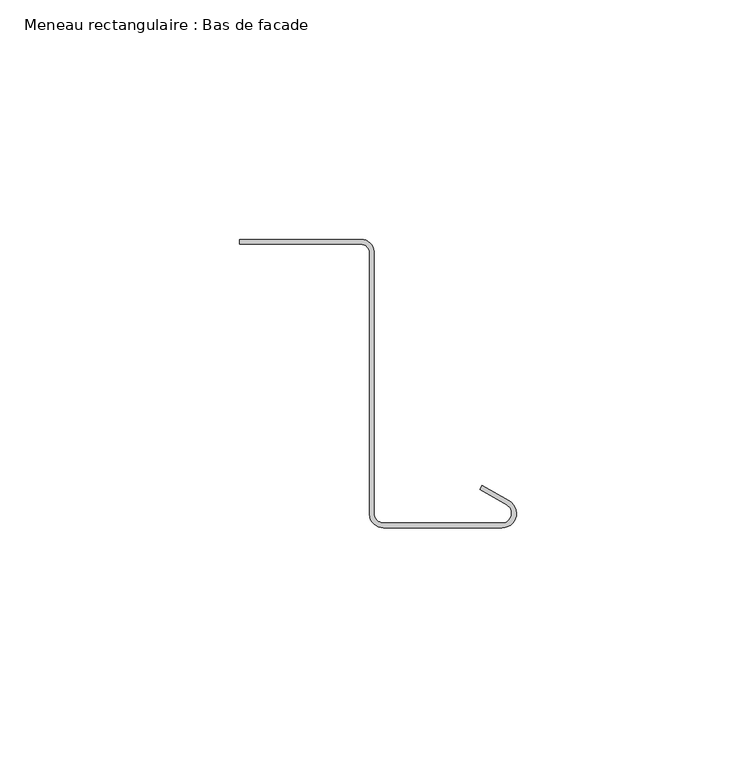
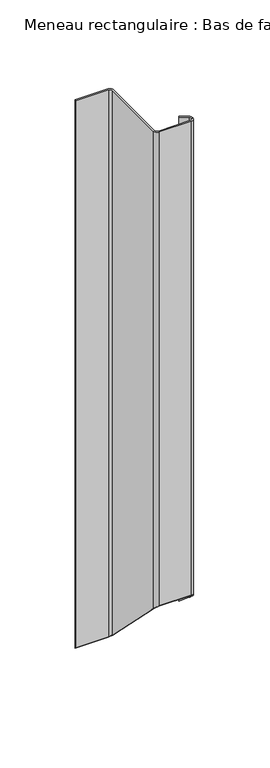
"""IFC4 building model written with IfcOpenShell, lengths in millimetres: member geometry, Meneau rectangulaire : Bas de facade."""

from ifc_helpers import new_model, si_unit, frame, origin, place, context, project, spatial, polyline, circle_curve, ellipse_curve, source, transform, mapped, element, save
from ifc_brep_helpers import plane_surface, cylinder_surface, revolved_surface, advanced_brep


def meneau_rectangulaire_bas_de_facade_e5fd763a(model_context):
    return source(origin(), model_context, "Body", "AdvancedBrep", [
        advanced_brep(
        [(-32.4584179, 2.9588923, 0.0), (-57.8548383, 2.9588923, 0.0), (-57.8548383, 1.9588923, 0.0), (-32.4584179, 1.9588923, 0.0), (-30.7239521, 0.4415475, 0.0), (-30.7239521, -54.522067, 0.0), (-27.735368, -57.2605998, 0.0), (-3.0, -57.2605998, 0.0), (-1.5, -51.6625235, 0.0), (-7.1638061, -48.3925235, 0.0), (-7.6638061, -49.258549, 0.0), (-2.0, -52.528549, 0.0), (-3.0, -56.2605998, 0.0), (-27.735368, -56.2605998, 0.0), (-29.7143802, -54.5495817, 0.0), (-29.7143802, 0.3898824, 0.0), (-32.4584179, 2.9588923, -445.9588923), (-57.8548383, 2.9588923, -445.9588923), (-57.8548383, 1.9588923, -444.9588923), (-32.4584179, 1.9588923, -444.9588923), (-30.7239521, 0.4415475, -443.4415475), (-30.7239521, -54.522067, -388.477933), (-27.735368, -57.2605998, -385.7394002), (-3.0, -57.2605998, -385.7394002), (-1.5, -51.6625235, -391.3374765), (-7.1638061, -48.3925235, -394.6074765), (-7.6638061, -49.258549, -393.741451), (-2.0, -52.528549, -390.471451), (-3.0, -56.2605998, -386.7394002), (-27.735368, -56.2605998, -386.7394002), (-29.7143802, -54.5495817, -388.4504183), (-29.7143802, 0.3898824, -443.3898824)],
        [
            (0, 1),
            (1, 2),
            (2, 3),
            (3, 4, circle_curve(frame((-32.4584179, 0.2088923, 0.0), z_axis=(0.0, 0.0, -1.0), x_axis=(0.0, 1.0, 0.0)), 1.75)),
            (4, 5),
            (5, 6, circle_curve(frame((-27.735368, -54.2605998, 0.0), z_axis=(0.0, 0.0, 1.0), x_axis=(-0.9961946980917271, -0.08715574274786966, 0.0)), 3.0)),
            (6, 7),
            (7, 8, circle_curve(frame((-3.0, -54.2605998, 0.0), z_axis=(0.0, 0.0, 1.0), x_axis=(0.0, -1.0, 0.0)), 3.0)),
            (8, 9),
            (9, 10),
            (10, 11),
            (11, 12, circle_curve(frame((-3.0, -54.2605998, 0.0), z_axis=(0.0, 0.0, -1.0), x_axis=(0.0, -1.0, 0.0)), 2.0)),
            (12, 13),
            (13, 14, circle_curve(frame((-27.735368, -54.2605998, 0.0), z_axis=(0.0, 0.0, -1.0), x_axis=(-0.9961946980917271, -0.08715574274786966, 0.0)), 2.0)),
            (14, 15),
            (15, 0, circle_curve(frame((-32.4584179, 0.2088923, 0.0), z_axis=(0.0, 0.0, 1.0), x_axis=(0.0, 1.0, 0.0)), 2.75)),
            (0, 16),
            (16, 17),
            (17, 1),
            (17, 18),
            (18, 2),
            (18, 19),
            (19, 3),
            (19, 20, ellipse_curve(frame((-32.4584179, 0.2088923, -443.2088923), z_axis=(0.0, -0.7071067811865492, -0.7071067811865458), x_axis=(0.0, 0.7071067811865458, -0.7071067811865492)), 2.4748737, 1.75)),
            (20, 4),
            (20, 21),
            (21, 5),
            (21, 22, ellipse_curve(frame((-27.735368, -54.2605998, -388.7394002), z_axis=(0.0, 0.7071067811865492, 0.7071067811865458), x_axis=(0.0, -0.7071067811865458, 0.7071067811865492)), 4.2426407, 3.0)),
            (22, 6),
            (22, 23),
            (23, 7),
            (23, 24, ellipse_curve(frame((-3.0, -54.2605998, -388.7394002), z_axis=(0.0, 0.7071067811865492, 0.7071067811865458), x_axis=(0.0, -0.7071067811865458, 0.7071067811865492)), 4.2426407, 3.0)),
            (24, 8),
            (24, 25),
            (25, 9),
            (25, 26),
            (26, 10),
            (26, 27),
            (27, 11),
            (27, 28, ellipse_curve(frame((-3.0, -54.2605998, -388.7394002), z_axis=(0.0, -0.7071067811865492, -0.7071067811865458), x_axis=(0.0, 0.7071067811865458, -0.7071067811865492)), 2.8284271, 2.0)),
            (28, 12),
            (28, 29),
            (29, 13),
            (29, 30, ellipse_curve(frame((-27.735368, -54.2605998, -388.7394002), z_axis=(0.0, -0.7071067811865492, -0.7071067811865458), x_axis=(0.0, 0.7071067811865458, -0.7071067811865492)), 2.8284271, 2.0)),
            (30, 14),
            (30, 31),
            (31, 15),
            (31, 16, ellipse_curve(frame((-32.4584179, 0.2088923, -443.2088923), z_axis=(0.0, 0.7071067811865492, 0.7071067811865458), x_axis=(0.0, -0.7071067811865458, 0.7071067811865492)), 3.8890873, 2.75)),
        ],
        [
            plane_surface(frame((0.0, -63.8351035, 0.0), z_axis=(0.0, 0.0, 1.0), x_axis=(-1.0, 0.0, 0.0))),
            plane_surface(frame((-32.4584179, 2.9588923, 0.0), z_axis=(0.0, 1.0, 0.0), x_axis=(0.0, 0.0, -1.0))),
            plane_surface(frame((-57.8548383, 2.9588923, 0.0), z_axis=(-1.0, 0.0, 0.0), x_axis=(0.0, 0.0, -1.0))),
            plane_surface(frame((-57.8548383, 1.9588923, 0.0), z_axis=(0.0, -1.0, 0.0), x_axis=(0.0, 0.0, -1.0))),
            revolved_surface(polyline([(-32.4584179, 1.9588923, -444.9588923), (-32.4584179, 1.9588923, 0.0)]), (-32.4584179, 0.2088923, 0.0), (0.0, 0.0, -1.0)),
            plane_surface(frame((-30.7239521, 0.4415475, 0.0), z_axis=(-1.0, 0.0, 0.0), x_axis=(0.0, 0.0, -1.0))),
            cylinder_surface(frame((-27.735368, -54.2605998, 0.0), z_axis=(0.0, 0.0, 1.0000000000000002), x_axis=(-0.9961946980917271, -0.08715574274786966, 0.0)), 3.0),
            plane_surface(frame((-27.735368, -57.2605998, 0.0), z_axis=(0.0, -1.0, 0.0), x_axis=(0.0, 0.0, -1.0))),
            cylinder_surface(frame((-3.0, -54.2605998, 0.0), z_axis=(0.0, 0.0, 1.0), x_axis=(0.0, -1.0, 0.0)), 3.0),
            plane_surface(frame((-1.5, -51.6625235, 0.0), z_axis=(0.5000000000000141, 0.8660254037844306, 0.0), x_axis=(0.0, 0.0, -1.0))),
            plane_surface(frame((-7.1638061, -48.3925235, 0.0), z_axis=(-0.8660254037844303, 0.5000000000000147, 0.0), x_axis=(0.0, 0.0, -1.0))),
            plane_surface(frame((-7.6638061, -49.258549, 0.0), z_axis=(-0.500000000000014, -0.8660254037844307, 0.0), x_axis=(0.0, 0.0, -1.0))),
            revolved_surface(polyline([(-3.0, -56.2605998, -390.7394001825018), (-3.0, -56.2605998, 0.0)]), (-3.0, -54.2605998, 0.0), (0.0, 0.0, -1.0)),
            plane_surface(frame((-3.0, -56.2605998, 0.0), z_axis=(0.0, 1.0, 0.0), x_axis=(0.0, 0.0, -1.0))),
            revolved_surface(polyline([(-29.727757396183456, -54.434911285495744, -390.73940018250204), (-29.727757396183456, -54.434911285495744, 0.0)]), (-27.735368, -54.2605998, 0.0), (0.0, 0.0, -1.0000000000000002)),
            plane_surface(frame((-29.7143802, -54.5495817, 0.0), z_axis=(1.0, 0.0, 0.0), x_axis=(0.0, 0.0, -1.0))),
            cylinder_surface(frame((-32.4584179, 0.2088923, 0.0), z_axis=(0.0, 0.0, 1.0), x_axis=(0.0, 1.0, 0.0)), 2.75),
            plane_surface(frame((304.8, 0.0, -443.0), z_axis=(0.0, -0.7071067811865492, -0.7071067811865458), x_axis=(0.0, -0.7071067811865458, 0.7071067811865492))),
        ],
        [
            (0, [[1, 2, 3, 4, 5, 6, 7, 8, 9, 10, 11, 12, 13, 14, 15, 16]]),
            (1, [[-1, 17, 18, 19]]),
            (2, [[-2, -19, 20, 21]]),
            (3, [[-3, -21, 22, 23]]),
            (4, [[-4, -23, 24, 25]]),
            (5, [[-5, -25, 26, 27]]),
            (6, [[-6, -27, 28, 29]]),
            (7, [[-7, -29, 30, 31]]),
            (8, [[-8, -31, 32, 33]]),
            (9, [[-9, -33, 34, 35]]),
            (10, [[-10, -35, 36, 37]]),
            (11, [[-11, -37, 38, 39]]),
            (12, [[-12, -39, 40, 41]]),
            (13, [[-13, -41, 42, 43]]),
            (14, [[-14, -43, 44, 45]]),
            (15, [[-15, -45, 46, 47]]),
            (16, [[-16, -47, 48, -17]]),
            (17, [[-48, -46, -44, -42, -40, -38, -36, -34, -32, -30, -28, -26, -24, -22, -20, -18]]),
        ],
    ),
    ])


if __name__ == "__main__":
    model = new_model("IFC4")
    model_context = context("Model", 3, world=origin())
    ifc_project = project(units=[si_unit("LENGTHUNIT", "METRE", prefix="MILLI")], contexts=[model_context])
    site = spatial("IfcSite", under=ifc_project)
    building = spatial("IfcBuilding", under=site)
    placement = place(None, origin())
    meneau_rectangulaire_bas_de_facade_shape = meneau_rectangulaire_bas_de_facade_e5fd763a(model_context)
    element("IfcMember", 1, ObjectType="Meneau rectangulaire : Bas de facade", at=placement, inside=building, context=model_context, shape_type="MappedRepresentation", body=[
        mapped(meneau_rectangulaire_bas_de_facade_shape, transform((0.0, 0.0, 0.0), x_axis=(1.0, 0.0, 0.0), y_axis=(0.0, 1.0, 0.0), z_axis=(0.0, 0.0, 1.0))),
    ])
    save(model, "model.ifc")
